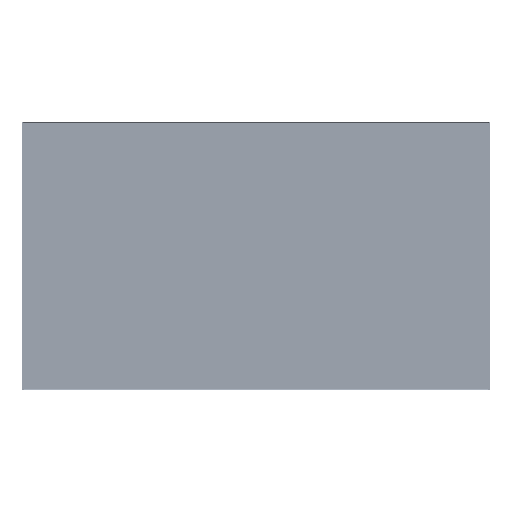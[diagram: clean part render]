
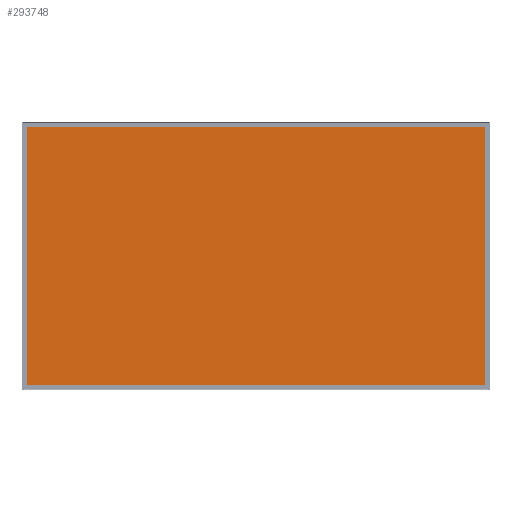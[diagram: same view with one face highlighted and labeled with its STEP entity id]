
A CAD part, top view. The second image highlights one B-rep face of the part: STEP entity #293748.
In plain terms, the highlighted planar face has unit normal (0, 0, 1).
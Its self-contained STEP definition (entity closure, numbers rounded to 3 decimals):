
#1482 = ORIENTED_EDGE ( 'NONE', *, *, #263138, .T. ) ;
#12621 = VECTOR ( 'NONE', #135468, 1000. ) ;
#18645 = CARTESIAN_POINT ( 'NONE',  ( -937.4, 527.9, 2. ) ) ;
#19157 = AXIS2_PLACEMENT_3D ( 'NONE', #139884, #278218, #118371 ) ;
#24583 = FACE_OUTER_BOUND ( 'NONE', #36637, .T. ) ;
#36637 = EDGE_LOOP ( 'NONE', ( #124485, #1482, #174162, #234794 ) ) ;
#38680 = CARTESIAN_POINT ( 'NONE',  ( -937.4, -527.9, 2. ) ) ;
#44659 = VECTOR ( 'NONE', #270763, 1000. ) ;
#53810 = VERTEX_POINT ( 'NONE', #263950 ) ;
#58733 = CARTESIAN_POINT ( 'NONE',  ( -937.4, 527.9, 2. ) ) ;
#70473 = LINE ( 'NONE', #18645, #12621 ) ;
#89149 = VERTEX_POINT ( 'NONE', #170180 ) ;
#90762 = LINE ( 'NONE', #301296, #116214 ) ;
#116214 = VECTOR ( 'NONE', #184468, 1000. ) ;
#118371 = DIRECTION ( 'NONE',  ( 1., 0., 0. ) ) ;
#124485 = ORIENTED_EDGE ( 'NONE', *, *, #203588, .T. ) ;
#135468 = DIRECTION ( 'NONE',  ( -1., 0., 0. ) ) ;
#139884 = CARTESIAN_POINT ( 'NONE',  ( 0., 0., 2. ) ) ;
#145015 = EDGE_CURVE ( 'NONE', #202062, #53810, #246217, .T. ) ;
#161817 = VECTOR ( 'NONE', #178570, 1000. ) ;
#170180 = CARTESIAN_POINT ( 'NONE',  ( -937.4, 527.9, 2. ) ) ;
#174162 = ORIENTED_EDGE ( 'NONE', *, *, #145015, .T. ) ;
#175566 = LINE ( 'NONE', #58733, #161817 ) ;
#178570 = DIRECTION ( 'NONE',  ( 0., -1., 0. ) ) ;
#179146 = VERTEX_POINT ( 'NONE', #272337 ) ;
#184468 = DIRECTION ( 'NONE',  ( 0., 1., 0. ) ) ;
#202062 = VERTEX_POINT ( 'NONE', #284361 ) ;
#203588 = EDGE_CURVE ( 'NONE', #179146, #89149, #70473, .T. ) ;
#234794 = ORIENTED_EDGE ( 'NONE', *, *, #289191, .T. ) ;
#246217 = LINE ( 'NONE', #38680, #44659 ) ;
#258194 = PLANE ( 'NONE',  #19157 ) ;
#263138 = EDGE_CURVE ( 'NONE', #89149, #202062, #175566, .T. ) ;
#263950 = CARTESIAN_POINT ( 'NONE',  ( 937.4, -527.9, 2. ) ) ;
#270763 = DIRECTION ( 'NONE',  ( 1., 0., 0. ) ) ;
#272337 = CARTESIAN_POINT ( 'NONE',  ( 937.4, 527.9, 2. ) ) ;
#278218 = DIRECTION ( 'NONE',  ( 0., 0., 1. ) ) ;
#284361 = CARTESIAN_POINT ( 'NONE',  ( -937.4, -527.9, 2. ) ) ;
#289191 = EDGE_CURVE ( 'NONE', #53810, #179146, #90762, .T. ) ;
#293748 = ADVANCED_FACE ( 'NONE', ( #24583 ), #258194, .T. ) ;
#301296 = CARTESIAN_POINT ( 'NONE',  ( 937.4, 527.9, 2. ) ) ;
